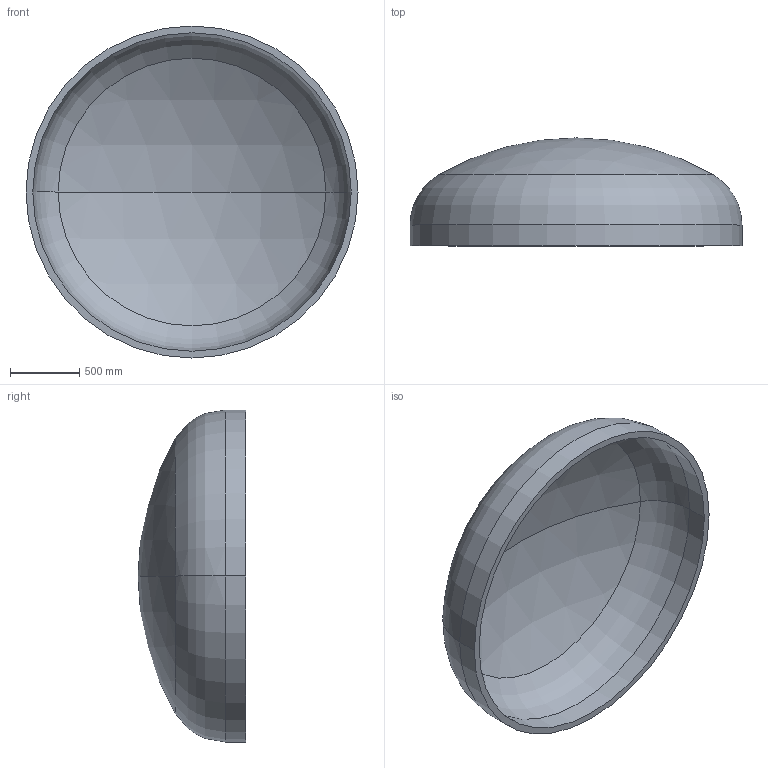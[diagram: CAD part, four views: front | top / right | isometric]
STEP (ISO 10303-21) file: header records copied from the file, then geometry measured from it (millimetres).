
FILE_DESCRIPTION (( 'STEP AP203' ), '1' );
FILE_NAME ('DIN 28013 Korbbogenform_-_Boden DIN 28013 - 2400 x 150 - I - s=49.step', '2016-07-01T15:26:12', ( '' ), ( '' ), 'SwSTEP 2.0', 'SolidWorks 2013', '' );
FILE_SCHEMA (( 'CONFIG_CONTROL_DESIGN' ));
Length unit declared in the file: millimetre
Products named in the file (1): DIN 28013 Korbbogenform_-_Boden DIN 28013 - 2400 x 150 - I - s=49
Bounding box: 2400 x 780.14 x 2400 mm (x, y, z)
Volume: 353221561.7 mm3; surface area: 14784139 mm2
Topology: 1 solids, 1 shells, 13 faces, 24 edges, 14 vertices
Faces by surface type: torus 4, cylinder 4, sphere 4, plane 1
Entity records: 407 total; most frequent: DIRECTION 72, CARTESIAN_POINT 52, ORIENTED_EDGE 48, AXIS2_PLACEMENT_3D 34, EDGE_CURVE 24, CIRCLE 20, VERTEX_POINT 14, EDGE_LOOP 14
